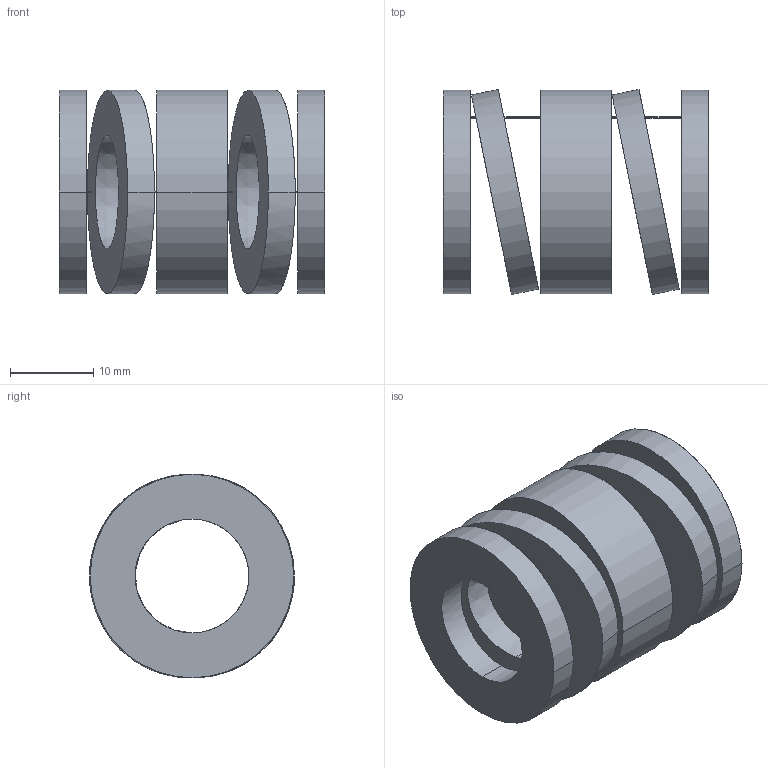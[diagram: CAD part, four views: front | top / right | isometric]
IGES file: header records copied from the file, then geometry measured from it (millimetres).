
Start section: START RECORD GO HERE.
Global section: file name: 392-B25-032.igs; native system: DASSAULT SYSTEMES CATIA V5 R20 - www.3ds.com; preprocessor: CATIA Version 5 Release 20 ; author: Utente; organization: NB04-ASUS; date: 20210813.100519; units: millimetre
Bounding box: 32 x 24.67 x 24.5 mm (x, y, z)
Surface area: 5840.4 mm2 (no closed solid volume)
Topology: 0 solids, 0 shells, 38 faces, 184 edges, 184 vertices
Faces by surface type: revolution 28, plane 10
